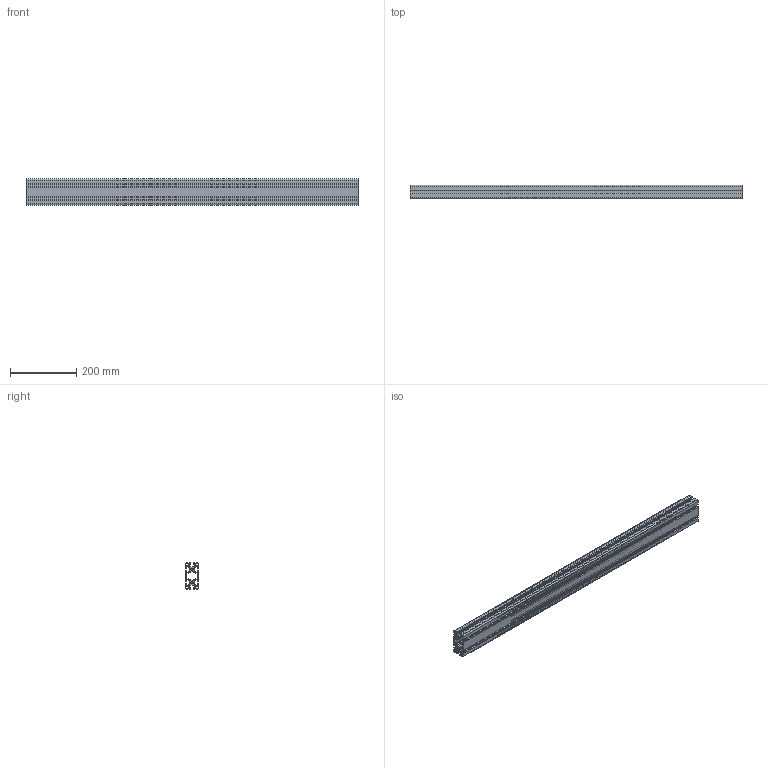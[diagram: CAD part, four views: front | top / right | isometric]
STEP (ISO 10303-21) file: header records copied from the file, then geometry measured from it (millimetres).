
FILE_DESCRIPTION (( 'STEP AP203' ), '1' );
FILE_NAME ('10425_PRO_80x40_L.STEP', '2016-03-01T15:27:22', ( '' ), ( '' ), 'SwSTEP 2.0', 'SolidWorks 2015', '' );
FILE_SCHEMA (( 'CONFIG_CONTROL_DESIGN' ));
Length unit declared in the file: millimetre
Products named in the file (1): 10425_PRO_80x40_L
Bounding box: 1000 x 40 x 80 mm (x, y, z)
Volume: 1141015 mm3; surface area: 767467.5 mm2
Topology: 1 solids, 1 shells, 262 faces, 780 edges, 520 vertices
Faces by surface type: plane 154, cylinder 108
Entity records: 8925 total; most frequent: CARTESIAN_POINT 1563, ORIENTED_EDGE 1560, DIRECTION 1522, EDGE_CURVE 780, LINE 564, VECTOR 564, VERTEX_POINT 520, AXIS2_PLACEMENT_3D 479
